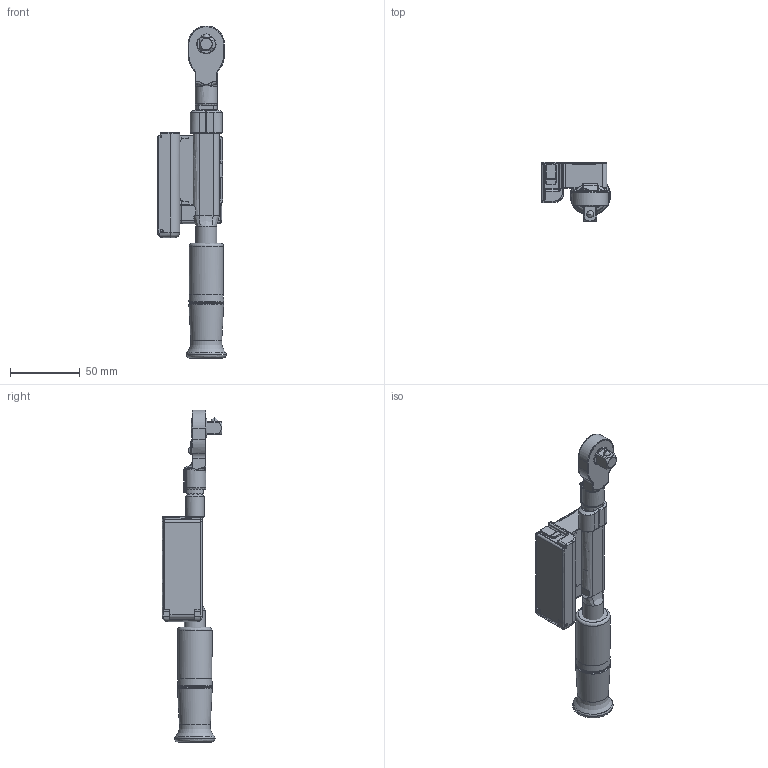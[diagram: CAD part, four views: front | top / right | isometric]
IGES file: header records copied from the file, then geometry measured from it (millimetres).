
Global section: file name: CSPFDD25N3X10D+QH10D; native system: Autodesk Inventor 2016; preprocessor: unknown; author: Q600; date: 20160428.173603; units: millimetre
Bounding box: 49.5 x 43.1 x 238.5 mm (x, y, z)
Surface area: 35680.7 mm2 (no closed solid volume)
Topology: 0 solids, 0 shells, 306 faces, 1821 edges, 1793 vertices
Faces by surface type: revolution 166, bspline 140
